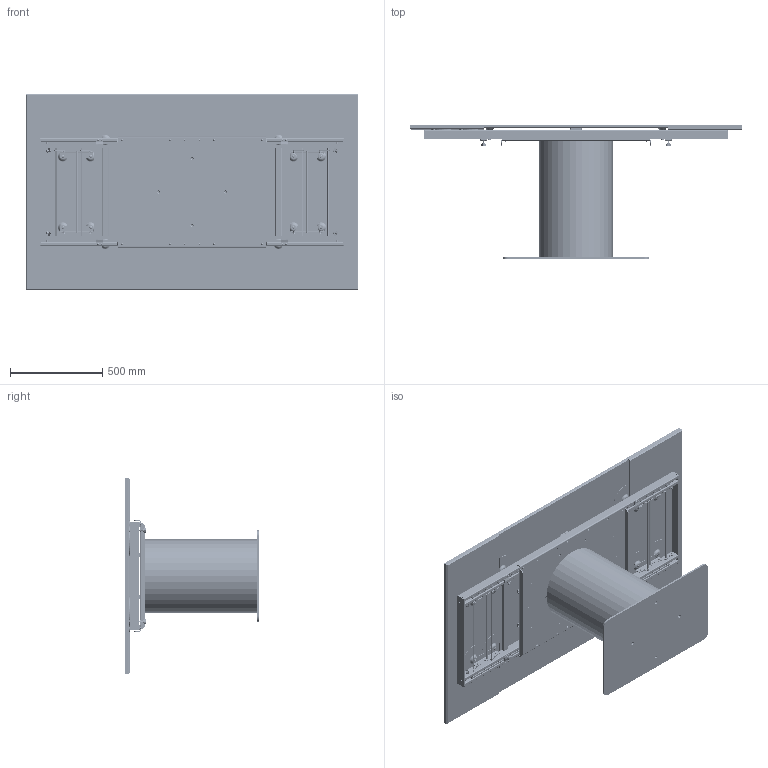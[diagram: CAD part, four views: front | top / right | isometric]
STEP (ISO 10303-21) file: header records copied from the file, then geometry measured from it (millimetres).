
FILE_DESCRIPTION (( 'STEP AP203' ), '1' );
FILE_NAME ('CA31C_CLOSE.STEP', '2024-08-08T10:09:45', ( '' ), ( '' ), 'SwSTEP 2.0', 'SolidWorks 2022', '' );
FILE_SCHEMA (( 'CONFIG_CONTROL_DESIGN' ));
Length unit declared in the file: millimetre
Products named in the file (73): M6xXXmm_M6x20mm; 523020806; 1000289; 523020809; 1000325; CIL000000COL40-00-CILINDRO ALLUN. COLONNA D.40cm_INDICAZIONE COLORE; 1000250; TTAV04-00-TELAIO ALLUNGABILE X TAVOLI 180 260cm_CHIUSO; 1000144; 1000273; 1000443; 1000262; 1000284; 5230208 SAL_LIBERO; SAB100301-00-CILINDRO_TWIST ALL PIASTRA ANCORAGGIO V03 ANTRACITE GOFFRATO IMB; SAB100301_02-00-CILINDRO_TWIST ALL PIASTRA ANCORAGGIO V03 ANTRACITE GOFFRATO IMB.SLDASM; 523020805; 523020814; 521061107_DEFAULT; 1000001A; 1000865; CA31C_CLOSE; 2001011; 523020808; 1000375; 1001141; K34-00-PIANO ALLUNGABILE 180X106; 1000251; 523020803; 1000337; 1000973; 1000181; 521061110; 523020802; COLLO TELAIO UNIVERSALE SAB100301 CON FERRAMENTA; 1000280; 1000165; 1001576; 523020817; CIL000000-00-CILINDRO ALLUNGABILE BASE D.400 C PIASTRA_BICOLORE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
Assembly tree (226 placements, depth 5):
  CA31C_CLOSE
    K34A-00-ALLUNGA 40X106  x2
      K34A_01-00-CERAMICA ALLUNGA 40X106
      DISCO PER PIANI IN CERAMICA
    K34-00-PIANO ALLUNGABILE 180X106
      K34_01-00-CERAMICA X ALLUNGABILE 180X106
      DISCO PER PIANI IN CERAMICA  x4
    CIL000000-00-CILINDRO ALLUNGABILE BASE D.400 C PIASTRA_BICOLORE
      CIL000000COL40-00-CILINDRO ALLUN. COLONNA D.40cm_INDICAZIONE COLORE
      CIL000000PST40-00-CILINRO ALLUN. PIASTRA SOTTO PER D.40cm_rettangolare
    COLLO TELAIO UNIVERSALE SAB100301 CON FERRAMENTA
      SAB100301-00-CILINDRO_TWIST ALL PIASTRA ANCORAGGIO V03 ANTRACITE GOFFRATO IMB
        SAB100301_01-00-CILINDRO_TWIST ALL PIASTRA ANCORAGGIO V03 ANTRACITE GOFFRATO IMB.SLDASM
        SAB100301_02-00-CILINDRO_TWIST ALL PIASTRA ANCORAGGIO V03 ANTRACITE GOFFRATO IMB.SLDASM  x2
      M6xXXmm_M6x20mm  x12
    TTAV04-00-TELAIO ALLUNGABILE X TAVOLI 180 260cm_CHIUSO
      5230208 TEL EST_DEFAULT
        523020803  x2
        523020813  x2
        521061110  x2
        523020811
        FERMO NEBULA H15,5  x4
          1000242
          1000515
          1000325
        1000144  x4
        521060816  x4
        1001535  x4
        1000250  x24
        1000165
        1000305  x4
        1000280  x4
        1000013  x4
        1000865  x4
        3001149  x4
        1000273  x20
        523020814  x4
        1000375  x8
        1000166
        1001576  x4
      5230208 TEL INT_CHIUSO_chiuso  x2
        5230208 SAL_LIBERO
          523020808
          523020806
          523020801  x2
          523020804_DEFAULT
          523020805
          521061107_DEFAULT  x4
          2001011  x2
        523020809
        523020802
        1000487
        RUOTA NEB H23,4
          1000338
          1000443
          1000084
        1000289
        1000096
        1000170
        1000304
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Bounding box: 1800 x 724.5 x 1060 mm (x, y, z)
Volume: 48650971.7 mm3; surface area: 18499148.7 mm2
Topology: 162 solids, 321 shells, 8326 faces, 20028 edges, 12660 vertices
Faces by surface type: cylinder 3516, plane 3366, cone 772, bspline 504, torus 168
Entity records: 72465 total; most frequent: CARTESIAN_POINT 12645, DIRECTION 10654, ORIENTED_EDGE 9544, EDGE_CURVE 4772, AXIS2_PLACEMENT_3D 4001, VERTEX_POINT 3068, VECTOR 2652, LINE 2652
